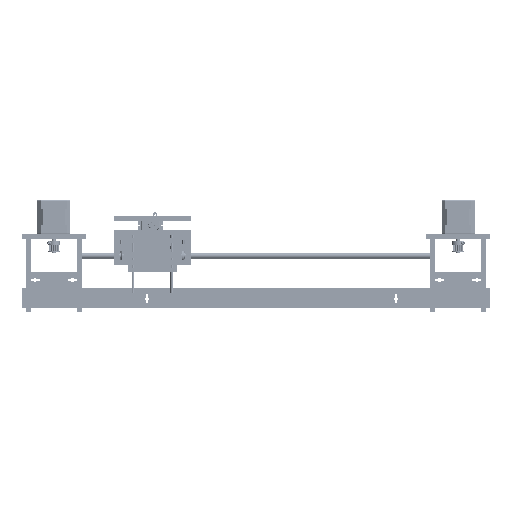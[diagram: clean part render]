
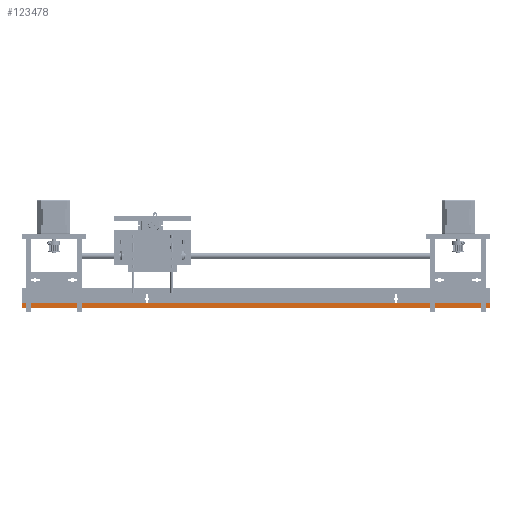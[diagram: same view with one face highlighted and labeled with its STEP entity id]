
A CAD part, front view. The second image highlights one B-rep face of the part: STEP entity #123478.
In plain terms, the highlighted planar face has unit normal (0, -1, 0).
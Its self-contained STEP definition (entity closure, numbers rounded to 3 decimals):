
#16802=FACE_OUTER_BOUND('',#24268,.T.);
#24268=EDGE_LOOP('',(#84156,#84157,#84158,#84159));
#32327=LINE('',#182500,#43304);
#32438=LINE('',#182746,#43415);
#32440=LINE('',#182750,#43417);
#32487=LINE('',#182867,#43464);
#43304=VECTOR('',#145129,10.);
#43415=VECTOR('',#145328,10.);
#43417=VECTOR('',#145332,10.);
#43464=VECTOR('',#145461,10.);
#54248=VERTEX_POINT('',#182497);
#54249=VERTEX_POINT('',#182499);
#54340=VERTEX_POINT('',#182745);
#54341=VERTEX_POINT('',#182749);
#65538=EDGE_CURVE('',#54249,#54248,#32327,.T.);
#65661=EDGE_CURVE('',#54340,#54249,#32438,.F.);
#65663=EDGE_CURVE('',#54341,#54340,#32440,.T.);
#65722=EDGE_CURVE('',#54248,#54341,#32487,.F.);
#84156=ORIENTED_EDGE('',*,*,#65663,.T.);
#84157=ORIENTED_EDGE('',*,*,#65661,.T.);
#84158=ORIENTED_EDGE('',*,*,#65538,.T.);
#84159=ORIENTED_EDGE('',*,*,#65722,.T.);
#119976=PLANE('',#131896);
#123478=ADVANCED_FACE('',(#16802),#119976,.T.);
#131896=AXIS2_PLACEMENT_3D('',#182869,#145463,#145464);
#145129=DIRECTION('',(-1.,0.,0.));
#145328=DIRECTION('',(0.,0.,-1.));
#145332=DIRECTION('',(1.,0.,0.));
#145461=DIRECTION('',(0.,0.,1.));
#145463=DIRECTION('center_axis',(0.,-1.,0.));
#145464=DIRECTION('ref_axis',(0.,0.,-1.));
#182497=CARTESIAN_POINT('',(-77.,50.,11.));
#182499=CARTESIAN_POINT('',(525.,50.,11.));
#182500=CARTESIAN_POINT('',(0.,50.,11.));
#182745=CARTESIAN_POINT('',(525.,50.,5.));
#182746=CARTESIAN_POINT('',(525.,50.,9.5));
#182749=CARTESIAN_POINT('',(-77.,50.,5.));
#182750=CARTESIAN_POINT('',(0.,50.,5.));
#182867=CARTESIAN_POINT('',(-77.,50.,6.5));
#182869=CARTESIAN_POINT('Origin',(0.,50.,11.));
